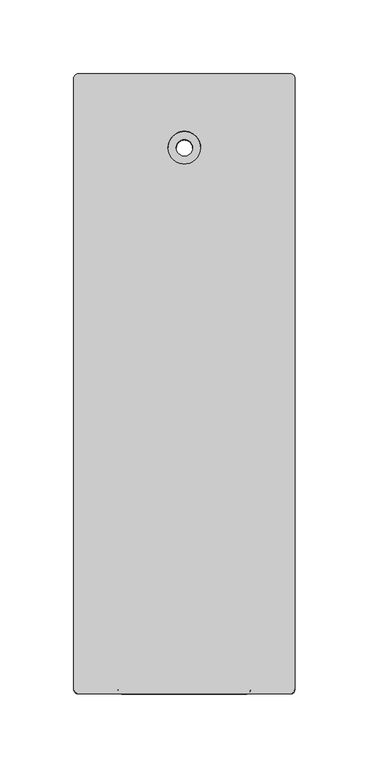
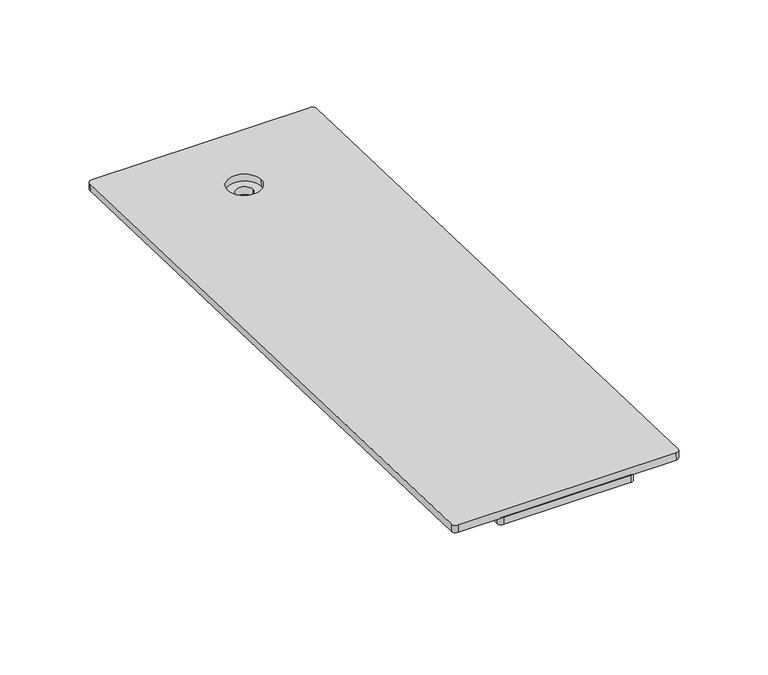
"""IFC4 building model written with IfcOpenShell, lengths in millimetres: proxy geometry, ML PhotonRoof Flat Anthracite Premium : 0.5X-L."""

from ifc_helpers import new_model, si_unit, point, frame, frame_2d, origin, place, context, project, spatial, polyline, circle_curve, trimmed, segment, composite_curve, outline, extrude, source, transform, mapped, element, save


def specialty_equipment_401cbe25(model_context):
    return source(origin(), model_context, "Body", "SweptSolid", [
        extrude(outline(composite_curve([segment(trimmed(circle_curve(frame_2d((80.972122, -3.0)), 3.0), [point((80.972122, 0.0))], [point((83.972122, -3.0))], False, "CARTESIAN"), True, "CONTINUOUS"), segment(polyline([(83.972122, -3.0), (83.972122, -417.0)]), True, "CONTINUOUS"), segment(trimmed(circle_curve(frame_2d((80.972122, -417.0)), 3.0), [point((83.972122, -417.0))], [point((80.972122, -420.0))], False, "CARTESIAN"), True, "CONTINUOUS"), segment(polyline([(80.972122, -420.0), (-3.027878, -420.0)]), True, "CONTINUOUS"), segment(trimmed(circle_curve(frame_2d((-3.027878, -417.0)), 3.0), [point((-3.027878, -420.0))], [point((-6.027878, -417.0))], False, "CARTESIAN"), True, "CONTINUOUS"), segment(polyline([(-6.027878, -417.0), (-6.027878, -3.0)]), True, "CONTINUOUS"), segment(trimmed(circle_curve(frame_2d((-3.027878, -3.0)), 3.0), [point((-6.027878, -3.0))], [point((-3.027878, 0.0))], False, "CARTESIAN"), True, "CONTINUOUS"), segment(polyline([(-3.027878, 0.0), (80.972122, 0.0)]), True, "CONTINUOUS")], self_intersect=False), holes=[composite_curve([segment(trimmed(circle_curve(frame_2d((38.972122, -50.0)), 5.5), [point((33.472122, -50.0))], [point((44.472122, -50.0))], True, "CARTESIAN"), True, "CONTINUOUS"), segment(trimmed(circle_curve(frame_2d((38.972122, -50.0)), 5.5), [point((44.472122, -50.0))], [point((33.472122, -50.0))], True, "CARTESIAN"), True, "CONTINUOUS")], self_intersect=False)]), frame((36.027878, 49.9753244, -1.5706531), z_axis=(0.0, 0.031413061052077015, 0.9995064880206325), x_axis=(1.0, 0.0, 0.0)), (0.0, 0.0, 1.0), 5.0),
        extrude(outline(composite_curve([segment(trimmed(circle_curve(frame_2d((234.9847867, -3.0)), 3.0), [point((234.9847867, 0.0))], [point((237.9847867, -3.0))], False, "CARTESIAN"), True, "CONTINUOUS"), segment(polyline([(237.9847867, -3.0), (237.9847867, -417.0)]), True, "CONTINUOUS"), segment(trimmed(circle_curve(frame_2d((234.9847867, -417.0)), 3.0), [point((237.9847867, -417.0))], [point((234.9847867, -420.0))], False, "CARTESIAN"), True, "CONTINUOUS"), segment(polyline([(234.9847867, -420.0), (90.9847867, -420.0)]), True, "CONTINUOUS"), segment(trimmed(circle_curve(frame_2d((90.9847867, -417.0)), 3.0), [point((90.9847867, -420.0))], [point((87.9847867, -417.0))], False, "CARTESIAN"), True, "CONTINUOUS"), segment(polyline([(87.9847867, -417.0), (87.9847867, -3.0)]), True, "CONTINUOUS"), segment(trimmed(circle_curve(frame_2d((90.9847867, -3.0)), 3.0), [point((87.9847867, -3.0))], [point((90.9847867, 0.0))], False, "CARTESIAN"), True, "CONTINUOUS"), segment(polyline([(90.9847867, 0.0), (234.9847867, 0.0)]), True, "CONTINUOUS")], self_intersect=False), holes=[composite_curve([segment(trimmed(circle_curve(frame_2d((162.9847867, -50.0)), 11.0), [point((151.9847867, -50.0))], [point((173.9847867, -50.0))], True, "CARTESIAN"), True, "CONTINUOUS"), segment(trimmed(circle_curve(frame_2d((162.9847867, -50.0)), 11.0), [point((173.9847867, -50.0))], [point((151.9847867, -50.0))], True, "CARTESIAN"), True, "CONTINUOUS")], self_intersect=False)]), frame((-87.9847867, 50.1323897, 3.4268794), z_axis=(0.0, 0.031413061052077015, 0.9995064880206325), x_axis=(1.0, 0.0, 0.0)), (0.0, 0.0, 1.0), 5.0),
        extrude(outline(polyline([(44.977792, -1.4135877), (44.9149658, -3.4126007), (27.9233555, -2.8785787), (27.3579204, -20.8696955), (24.359401, -20.7754563), (24.9876622, -0.7853265), (44.977792, -1.4135877)])), frame((50.0, 0.0, 0.0), z_axis=(1.0, 0.0, 0.0), x_axis=(0.0, 1.0, 0.0)), (0.0, 0.0, 1.0), 50.0),
    ])


if __name__ == "__main__":
    model = new_model("IFC4")
    model_context = context("Model", 3, world=origin())
    ifc_project = project(units=[si_unit("LENGTHUNIT", "METRE", prefix="MILLI")], contexts=[model_context])
    site = spatial("IfcSite", under=ifc_project)
    building = spatial("IfcBuilding", under=site)
    placement = place(None, origin())
    specialty_equipment_shape = specialty_equipment_401cbe25(model_context)
    element("IfcBuildingElementProxy", 1, Name="ML PhotonRoof Flat Anthracite Premium : 0.5X-L", ObjectType="ML PhotonRoof Flat Anthracite Premium : 0.5X-L", at=placement, inside=building, context=model_context, shape_type="MappedRepresentation", body=[
        mapped(specialty_equipment_shape, transform((0.0, 0.0, 0.0), x_axis=(1.0, 0.0, 0.0), y_axis=(0.0, 1.0, 0.0), z_axis=(0.0, 0.0, 1.0))),
    ])
    save(model, "model.ifc")
